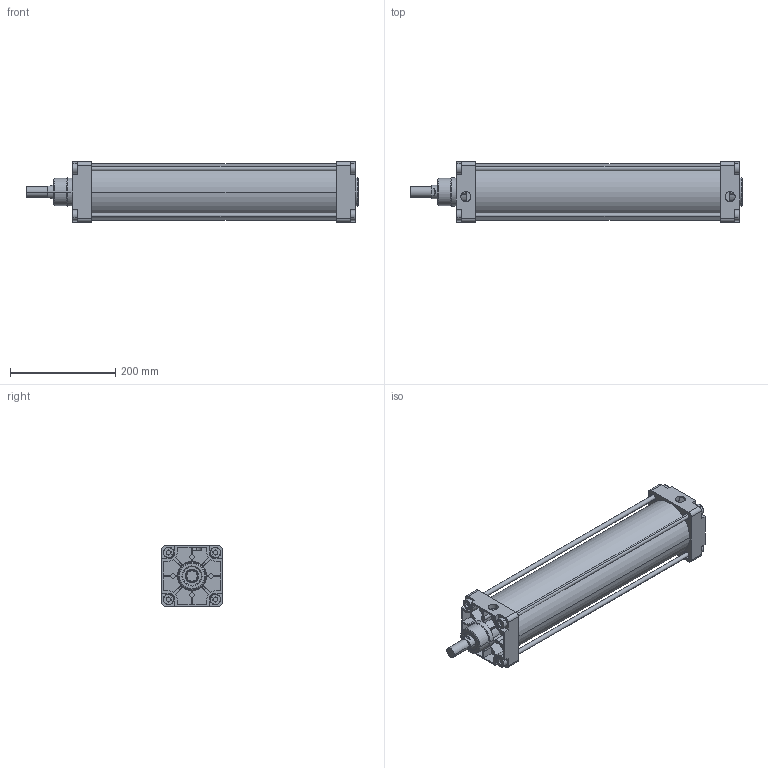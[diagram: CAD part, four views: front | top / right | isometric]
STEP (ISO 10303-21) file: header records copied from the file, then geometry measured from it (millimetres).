
FILE_DESCRIPTION(('CATIA V5 STEP Exchange'),'2;1');
FILE_NAME('D:\stp file for catalog\PNC\100\PNC 100-25-400.stp','2015-10-20T05:59:11+00:00',('none'),('none'),'Version 5-6 Release 2012','CATIA V5 STEP AP203','none');
FILE_SCHEMA(('CONFIG_CONTROL_DESIGN'));
Length unit declared in the file: millimetre
Products named in the file (1): PNC 100-25-400-00
Assembly tree (2 placements, depth 2):
  PNC 100-25-400-00
    #58
    #14164
Bounding box: 630.5 x 115 x 115 mm (x, y, z)
Volume: 2109674.7 mm3; surface area: 578849.6 mm2
Topology: 6 solids, 6 shells, 534 faces, 1388 edges, 914 vertices
Faces by surface type: plane 336, cylinder 166, torus 26, cone 6
Entity records: 14688 total; most frequent: ORIENTED_EDGE 2776, CARTESIAN_POINT 2595, DIRECTION 1902, EDGE_CURVE 1388, VECTOR 922, LINE 922, VERTEX_POINT 914, AXIS2_PLACEMENT_3D 719
